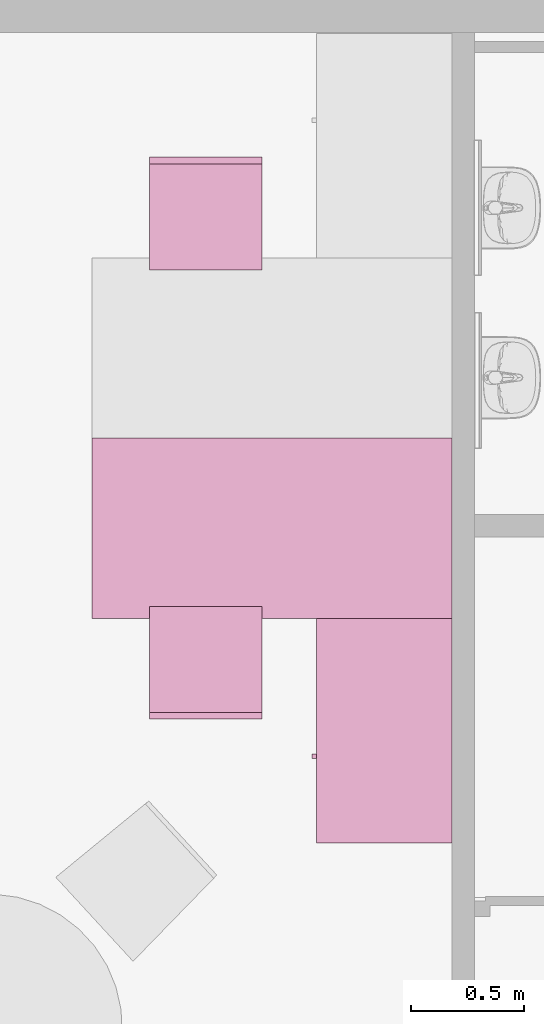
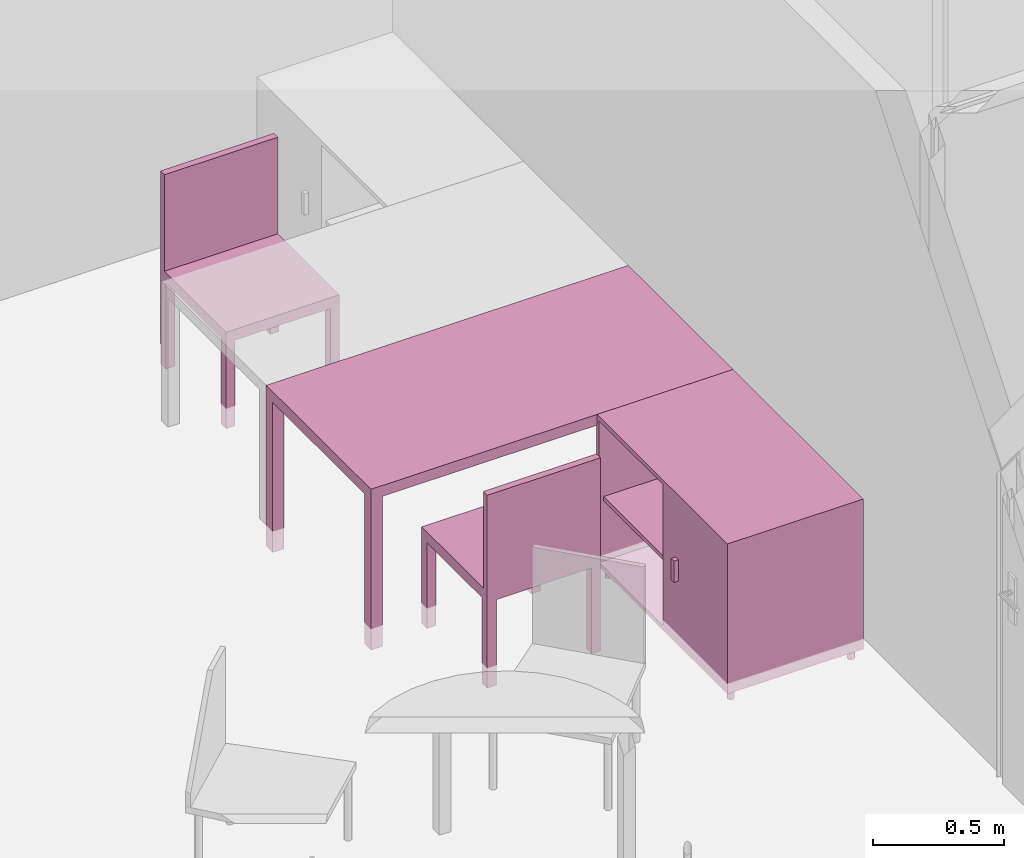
"""IFC4 building model written with IfcOpenShell, lengths in metres."""

from ifc_helpers import new_model, entity, si_unit, converted_unit, derived_unit, frame, origin, place, context, subcontext, project, spatial, faceted_brep, element, save


model = new_model("IFC4")

# Units and contexts
model_context = context("Model", 3, precision=1e-05, world=origin())
body_context = subcontext(model_context, "Body", "Model", "MODEL_VIEW")
ifc_project = project(units=[si_unit("LENGTHUNIT", "METRE"), si_unit("AREAUNIT", "SQUARE_METRE"), si_unit("VOLUMEUNIT", "CUBIC_METRE"), si_unit("MASSUNIT", "GRAM", prefix="KILO"), converted_unit("PLANEANGLEUNIT", "DEGREE", entity("IfcPlaneAngleMeasure", 0.0174532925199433), si_unit("PLANEANGLEUNIT", "RADIAN"), dimensions=[0, 0, 0, 0, 0, 0, 0]), derived_unit("THERMALTRANSMITTANCEUNIT", [(si_unit("POWERUNIT", "WATT"), 1), (si_unit("THERMODYNAMICTEMPERATUREUNIT", "KELVIN"), -1), (si_unit("LENGTHUNIT", "METRE"), -2)]), derived_unit("VOLUMETRICFLOWRATEUNIT", [(si_unit("LENGTHUNIT", "METRE"), 3), (converted_unit("TIMEUNIT", "hour", entity("IfcTimeMeasure", 3600.0), si_unit("TIMEUNIT", "SECOND"), dimensions=[0, 0, 1, 0, 0, 0, 0]), -1), (si_unit("LENGTHUNIT", "METRE"), -1)])], contexts=[model_context])

# Building, storeys
building_placement = place(None, origin())
building = spatial("IfcBuilding", under=ifc_project, at=building_placement, Name="HABITATGE PLURIFAMILIAR", CompositionType="ELEMENT")
storey_1_placement = place(building_placement, frame((0.0, 0.0, 12.27)))
storey_1 = spatial("IfcBuildingStorey", under=building, at=storey_1_placement, Name="PLANTA TERCERA", CompositionType="ELEMENT", Elevation=12.27)
storey_2_placement = place(storey_1_placement, frame((0.0, 0.0, 9.26)))
storey_2 = spatial("IfcBuildingStorey", under=storey_1, at=storey_2_placement, Name="NOU", CompositionType="PARTIAL")

# Furniture
furniture_1_placement = place(storey_2_placement, frame((402.994517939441, 27.015601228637, -9.35590342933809)))
element("IfcFurniture", 1, at=furniture_1_placement, inside=storey_2, Name="Cadira d'Oficina_P3", context=body_context, shape_type="Brep", body=[
    faceted_brep([(0.0, 0.0, 0.4), (0.5, 0.0, 0.4), (0.5, 0.500000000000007, 0.4), (0.0, 0.500000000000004, 0.4), (0.0, 0.500000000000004, 0.45), (0.5, 0.500000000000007, 0.45), (0.5, 0.0, 0.45), (0.0, 0.0, 0.45)], [[[0, 1, 2, 3]], [[4, 5, 6, 7]], [[3, 4, 7, 0]], [[2, 5, 4, 3]], [[1, 6, 5, 2]], [[0, 7, 6, 1]]], orient=[[False], [False], [False], [False], [False], [False]]),
    faceted_brep([(0.5, 0.460000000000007, 0.0), (0.5, 0.500000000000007, 0.0), (0.46, 0.500000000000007, 0.0), (0.46, 0.460000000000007, 0.0), (0.46, 0.460000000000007, 0.4), (0.46, 0.500000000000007, 0.4), (0.5, 0.500000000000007, 0.4), (0.5, 0.460000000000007, 0.4)], [[[0, 1, 2, 3]], [[4, 5, 6, 7]], [[3, 4, 7, 0]], [[2, 5, 4, 3]], [[1, 6, 5, 2]], [[0, 7, 6, 1]]], orient=[[False], [False], [False], [False], [False], [False]]),
    faceted_brep([(0.5, 0.0, 0.0), (0.5, 0.0400000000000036, 0.0), (0.46, 0.0400000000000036, 0.0), (0.46, 0.0, 0.0), (0.46, 0.0, 0.4), (0.46, 0.0400000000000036, 0.4), (0.5, 0.0400000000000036, 0.4), (0.5, 0.0, 0.4)], [[[0, 1, 2, 3]], [[4, 5, 6, 7]], [[3, 4, 7, 0]], [[2, 5, 4, 3]], [[1, 6, 5, 2]], [[0, 7, 6, 1]]], orient=[[False], [False], [False], [False], [False], [False]]),
    faceted_brep([(0.04, 0.460000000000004, 0.0), (0.04, 0.500000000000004, 0.0), (0.0, 0.500000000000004, 0.0), (0.0, 0.460000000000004, 0.0), (0.0, 0.460000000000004, 0.4), (0.0, 0.500000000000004, 0.4), (0.04, 0.500000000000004, 0.4), (0.04, 0.460000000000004, 0.4)], [[[0, 1, 2, 3]], [[4, 5, 6, 7]], [[3, 4, 7, 0]], [[2, 5, 4, 3]], [[1, 6, 5, 2]], [[0, 7, 6, 1]]], orient=[[False], [False], [False], [False], [False], [False]]),
    faceted_brep([(0.04, 0.0, 0.0), (0.04, 0.04, 0.0), (0.0, 0.04, 0.0), (0.0, 0.0, 0.0), (0.0, 0.0, 0.4), (0.0, 0.04, 0.4), (0.04, 0.04, 0.4), (0.04, 0.0, 0.4)], [[[0, 1, 2, 3]], [[4, 5, 6, 7]], [[3, 4, 7, 0]], [[2, 5, 4, 3]], [[1, 6, 5, 2]], [[0, 7, 6, 1]]], orient=[[False], [False], [False], [False], [False], [False]]),
    faceted_brep([(0.5, 0.470000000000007, 0.45), (0.5, 0.500000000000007, 0.45), (0.0, 0.500000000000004, 0.45), (0.0, 0.470000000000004, 0.45), (0.0, 0.470000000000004, 0.9), (0.0, 0.500000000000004, 0.9), (0.5, 0.500000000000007, 0.9), (0.5, 0.470000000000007, 0.9)], [[[0, 1, 2, 3]], [[4, 5, 6, 7]], [[3, 4, 7, 0]], [[2, 5, 4, 3]], [[1, 6, 5, 2]], [[0, 7, 6, 1]]], orient=[[False], [False], [False], [False], [False], [False]]),
])
furniture_2_placement = place(storey_2_placement, frame((402.740038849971, 25.4681098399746, -9.3599999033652)))
element("IfcFurniture", 2, at=furniture_2_placement, inside=storey_2, Name="Taula 160X80_P3", context=body_context, shape_type="Brep", body=[
    faceted_brep([(0.05, 0.750069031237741, 0.0), (0.05, 0.800069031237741, 0.0), (0.0, 0.800069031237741, 0.0), (0.0, 0.750069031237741, 0.0), (0.05, 0.800069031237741, 0.7), (0.05, 0.750069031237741, 0.7), (0.0, 0.750069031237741, 0.7), (0.0, 0.800069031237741, 0.7)], [[[0, 1, 2, 3]], [[4, 5, 6, 7]], [[1, 0, 5, 4]], [[2, 1, 4, 7]], [[3, 2, 7, 6]], [[0, 3, 6, 5]]], orient=[[False], [False], [False], [False], [False], [False]]),
    faceted_brep([(0.05, 0.0, 0.0), (0.05, 0.05, 0.0), (0.0, 0.05, 0.0), (0.0, 0.0, 0.0), (0.05, 0.05, 0.7), (0.05, 0.0, 0.7), (0.0, 0.0, 0.7), (0.0, 0.05, 0.7)], [[[0, 1, 2, 3]], [[4, 5, 6, 7]], [[1, 0, 5, 4]], [[2, 1, 4, 7]], [[3, 2, 7, 6]], [[0, 3, 6, 5]]], orient=[[False], [False], [False], [False], [False], [False]]),
    faceted_brep([(1.596945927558, 0.0, 0.7), (1.596945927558, 0.800069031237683, 0.7), (0.0, 0.800069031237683, 0.7), (0.0, 0.0, 0.7), (1.596945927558, 0.800069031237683, 0.75), (1.596945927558, 0.0, 0.75), (0.0, 0.0, 0.75), (0.0, 0.800069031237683, 0.75)], [[[0, 1, 2, 3]], [[4, 5, 6, 7]], [[1, 0, 5, 4]], [[2, 1, 4, 7]], [[3, 2, 7, 6]], [[0, 3, 6, 5]]], orient=[[False], [False], [False], [False], [False], [False]]),
    faceted_brep([(1.596945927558, 0.750069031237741, 0.0), (1.596945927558, 0.800069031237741, 0.0), (1.546945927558, 0.800069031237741, 0.0), (1.546945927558, 0.750069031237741, 0.0), (1.596945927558, 0.800069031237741, 0.7), (1.596945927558, 0.750069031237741, 0.7), (1.546945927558, 0.750069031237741, 0.7), (1.546945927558, 0.800069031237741, 0.7)], [[[0, 1, 2, 3]], [[4, 5, 6, 7]], [[1, 0, 5, 4]], [[2, 1, 4, 7]], [[3, 2, 7, 6]], [[0, 3, 6, 5]]], orient=[[False], [False], [False], [False], [False], [False]]),
    faceted_brep([(1.596945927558, 0.0, 0.0), (1.596945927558, 0.05, 0.0), (1.546945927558, 0.05, 0.0), (1.546945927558, 0.0, 0.0), (1.596945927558, 0.05, 0.7), (1.596945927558, 0.0, 0.7), (1.546945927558, 0.0, 0.7), (1.546945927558, 0.05, 0.7)], [[[0, 1, 2, 3]], [[4, 5, 6, 7]], [[1, 0, 5, 4]], [[2, 1, 4, 7]], [[3, 2, 7, 6]], [[0, 3, 6, 5]]], orient=[[False], [False], [False], [False], [False], [False]]),
])
furniture_3_placement = place(storey_2_placement, frame((403.716984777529, 24.4721359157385, -9.3599999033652)))
element("IfcFurniture", 3, at=furniture_3_placement, inside=storey_2, Name="Taula 100X60_P3", context=body_context, shape_type="Brep", body=[
    faceted_brep([(0.620000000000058, 1.00000000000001, 0.05), (0.620000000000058, 1.00000000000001, 0.07), (0.02, 1.00000000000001, 0.07), (0.02, 1.00000000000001, 0.05), (0.02, 0.0, 0.07), (0.02, 0.0, 0.05), (0.620000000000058, 0.0, 0.07), (0.620000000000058, 0.0, 0.05)], [[[0, 1, 2, 3]], [[3, 2, 4, 5]], [[5, 4, 6, 7]], [[7, 6, 1, 0]], [[0, 3, 5, 7]], [[1, 6, 4, 2]]], orient=[[False], [False], [False], [False], [False], [False]]),
    faceted_brep([(0.04, 1.00000000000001, 0.35), (0.04, 0.0, 0.35), (0.62, 0.0, 0.35), (0.62, 1.00000000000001, 0.35), (0.62, 1.00000000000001, 0.37), (0.62, 0.0, 0.37), (0.04, 0.0, 0.37), (0.04, 1.00000000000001, 0.37)], [[[0, 1, 2, 3]], [[4, 5, 6, 7]], [[3, 4, 7, 0]], [[2, 5, 4, 3]], [[1, 6, 5, 2]], [[0, 7, 6, 1]]], orient=[[False], [False], [False], [False], [False], [False]]),
    faceted_brep([(0.04, 0.490000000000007, 0.75), (0.02, 0.490000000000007, 0.75), (0.02, 0.490000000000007, 0.05), (0.04, 0.490000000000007, 0.05), (0.02, 0.0, 0.05), (0.04, 0.0, 0.05), (0.02, 0.0, 0.75), (0.04, 0.0, 0.75)], [[[0, 1, 2, 3]], [[3, 2, 4, 5]], [[5, 4, 6, 7]], [[7, 6, 1, 0]], [[0, 3, 5, 7]], [[1, 6, 4, 2]]], orient=[[False], [False], [False], [False], [False], [False]]),
    faceted_brep([(0.62, 0.980000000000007, 0.75), (0.62, 1.00000000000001, 0.75), (0.620000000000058, 1.00000000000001, 0.0499999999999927), (0.620000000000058, 0.980000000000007, 0.0499999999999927), (0.02, 1.00000000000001, 0.05), (0.02, 0.980000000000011, 0.05), (0.02, 1.00000000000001, 0.75), (0.02, 0.980000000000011, 0.75)], [[[0, 1, 2, 3]], [[3, 2, 4, 5]], [[5, 4, 6, 7]], [[7, 6, 1, 0]], [[0, 3, 5, 7]], [[1, 6, 4, 2]]], orient=[[False], [False], [False], [False], [False], [False]]),
    faceted_brep([(0.62, 0.470000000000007, 0.75), (0.62, 0.490000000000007, 0.75), (0.620000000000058, 0.490000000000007, 0.0499999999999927), (0.620000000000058, 0.470000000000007, 0.0499999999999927), (0.02, 0.490000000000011, 0.05), (0.02, 0.470000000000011, 0.05), (0.02, 0.490000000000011, 0.75), (0.02, 0.470000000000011, 0.75)], [[[0, 1, 2, 3]], [[3, 2, 4, 5]], [[5, 4, 6, 7]], [[7, 6, 1, 0]], [[0, 3, 5, 7]], [[1, 6, 4, 2]]], orient=[[False], [False], [False], [False], [False], [False]]),
    faceted_brep([(0.620000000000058, 0.47, 0.750000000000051), (0.620000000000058, 0.490000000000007, 0.750000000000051), (0.620000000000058, 0.490000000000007, 0.0499999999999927), (0.620000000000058, 0.47, 0.0499999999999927), (0.0400000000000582, 0.490000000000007, 0.0499999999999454), (0.0400000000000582, 0.47, 0.0499999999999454), (0.04, 0.490000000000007, 0.750000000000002), (0.04, 0.47, 0.750000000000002)], [[[0, 1, 2, 3]], [[3, 2, 4, 5]], [[5, 4, 6, 7]], [[7, 6, 1, 0]], [[0, 3, 5, 7]], [[1, 6, 4, 2]]], orient=[[False], [False], [False], [False], [False], [False]]),
    faceted_brep([(0.62, 0.0, 0.75), (0.62, 0.0200000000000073, 0.75), (0.620000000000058, 0.0200000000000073, 0.0499999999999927), (0.620000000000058, 0.0, 0.0499999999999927), (0.02, 0.0200000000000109, 0.05), (0.02, 0.0, 0.05), (0.02, 0.0200000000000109, 0.75), (0.02, 0.0, 0.75)], [[[0, 1, 2, 3]], [[3, 2, 4, 5]], [[5, 4, 6, 7]], [[7, 6, 1, 0]], [[0, 3, 5, 7]], [[1, 6, 4, 2]]], orient=[[False], [False], [False], [False], [False], [False]]),
    faceted_brep([(0.620000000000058, 1.00000000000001, 0.73), (0.620000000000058, 1.00000000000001, 0.75), (0.02, 1.00000000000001, 0.75), (0.02, 1.00000000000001, 0.73), (0.02, 0.0, 0.75), (0.02, 0.0, 0.73), (0.620000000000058, 0.0, 0.75), (0.620000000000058, 0.0, 0.73)], [[[0, 1, 2, 3]], [[3, 2, 4, 5]], [[5, 4, 6, 7]], [[7, 6, 1, 0]], [[0, 3, 5, 7]], [[1, 6, 4, 2]]], orient=[[False], [False], [False], [False], [False], [False]]),
    faceted_brep([(0.62, 0.980000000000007, 0.75), (0.6, 0.980000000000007, 0.75), (0.6, 0.980000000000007, 0.05), (0.62, 0.980000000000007, 0.05), (0.6, 0.0, 0.05), (0.62, 0.0, 0.05), (0.6, 0.0, 0.75), (0.62, 0.0, 0.75)], [[[0, 1, 2, 3]], [[3, 2, 4, 5]], [[5, 4, 6, 7]], [[7, 6, 1, 0]], [[0, 3, 5, 7]], [[1, 6, 4, 2]]], orient=[[False], [False], [False], [False], [False], [False]]),
    faceted_brep([(0.02, 0.37442032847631, 0.35), (0.02, 0.39442032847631, 0.35), (0.0, 0.39442032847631, 0.35), (0.0, 0.37442032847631, 0.35), (0.02, 0.39442032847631, 0.45), (0.02, 0.37442032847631, 0.45), (0.0, 0.37442032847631, 0.45), (0.0, 0.39442032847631, 0.45)], [[[0, 1, 2, 3]], [[4, 5, 6, 7]], [[1, 0, 5, 4]], [[2, 1, 4, 7]], [[3, 2, 7, 6]], [[0, 3, 6, 5]]], orient=[[False], [False], [False], [False], [False], [False]]),
    faceted_brep([(0.583821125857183, 0.950063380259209, 0.0), (0.586415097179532, 0.950290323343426, 0.0), (0.588930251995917, 0.950964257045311, 0.0), (0.591290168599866, 0.952064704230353, 0.0), (0.59342314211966, 0.953558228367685, 0.0), (0.595264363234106, 0.955399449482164, 0.0), (0.596757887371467, 0.957532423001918, 0.0), (0.597858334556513, 0.959892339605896, 0.0), (0.598532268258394, 0.962407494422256, 0.0), (0.598759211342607, 0.96500146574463, 0.0), (0.598532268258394, 0.967595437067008, 0.0), (0.597858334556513, 0.970110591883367, 0.0), (0.596757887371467, 0.972470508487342, 0.0), (0.595264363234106, 0.9746034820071, 0.0), (0.59342314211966, 0.976444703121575, 0.0), (0.591290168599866, 0.977938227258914, 0.0), (0.588930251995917, 0.979038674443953, 0.0), (0.586415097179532, 0.979712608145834, 0.0), (0.583821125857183, 0.979939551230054, 0.0), (0.581227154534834, 0.979712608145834, 0.0), (0.578711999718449, 0.979038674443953, 0.0), (0.5763520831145, 0.977938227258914, 0.0), (0.574219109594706, 0.976444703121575, 0.0), (0.57237788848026, 0.9746034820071, 0.0), (0.570884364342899, 0.972470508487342, 0.0), (0.569783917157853, 0.970110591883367, 0.0), (0.569109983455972, 0.967595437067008, 0.0), (0.568883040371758, 0.96500146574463, 0.0), (0.569109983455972, 0.962407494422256, 0.0), (0.569783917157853, 0.959892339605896, 0.0), (0.570884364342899, 0.957532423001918, 0.0), (0.57237788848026, 0.955399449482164, 0.0), (0.574219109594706, 0.953558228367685, 0.0), (0.5763520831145, 0.952064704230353, 0.0), (0.578711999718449, 0.950964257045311, 0.0), (0.581227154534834, 0.950290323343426, 0.0), (0.583821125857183, 0.950063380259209, 0.05), (0.581227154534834, 0.950290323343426, 0.05), (0.578711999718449, 0.950964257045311, 0.05), (0.5763520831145, 0.952064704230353, 0.05), (0.574219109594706, 0.953558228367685, 0.05), (0.57237788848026, 0.955399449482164, 0.05), (0.570884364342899, 0.957532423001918, 0.05), (0.569783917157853, 0.959892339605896, 0.05), (0.569109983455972, 0.962407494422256, 0.05), (0.568883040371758, 0.96500146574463, 0.05), (0.569109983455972, 0.967595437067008, 0.05), (0.569783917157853, 0.970110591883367, 0.05), (0.570884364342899, 0.972470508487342, 0.05), (0.57237788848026, 0.9746034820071, 0.05), (0.574219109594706, 0.976444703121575, 0.05), (0.5763520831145, 0.977938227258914, 0.05), (0.578711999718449, 0.979038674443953, 0.05), (0.581227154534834, 0.979712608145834, 0.05), (0.583821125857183, 0.979939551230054, 0.05), (0.586415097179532, 0.979712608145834, 0.05), (0.588930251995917, 0.979038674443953, 0.05), (0.591290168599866, 0.977938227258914, 0.05), (0.59342314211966, 0.976444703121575, 0.05), (0.595264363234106, 0.9746034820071, 0.05), (0.596757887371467, 0.972470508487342, 0.05), (0.597858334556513, 0.970110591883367, 0.05), (0.598532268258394, 0.967595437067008, 0.05), (0.598759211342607, 0.96500146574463, 0.05), (0.598532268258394, 0.962407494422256, 0.05), (0.597858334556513, 0.959892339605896, 0.05), (0.596757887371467, 0.957532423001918, 0.05), (0.595264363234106, 0.955399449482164, 0.05), (0.59342314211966, 0.953558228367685, 0.05), (0.591290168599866, 0.952064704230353, 0.05), (0.588930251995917, 0.950964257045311, 0.05), (0.586415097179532, 0.950290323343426, 0.05)], [[[0, 1, 2, 3, 4, 5, 6, 7, 8, 9, 10, 11, 12, 13, 14, 15, 16, 17, 18, 19, 20, 21, 22, 23, 24, 25, 26, 27, 28, 29, 30, 31, 32, 33, 34, 35]], [[36, 37, 38, 39, 40, 41, 42, 43, 44, 45, 46, 47, 48, 49, 50, 51, 52, 53, 54, 55, 56, 57, 58, 59, 60, 61, 62, 63, 64, 65, 66, 67, 68, 69, 70, 71]], [[35, 37, 36, 0]], [[34, 38, 37, 35]], [[33, 39, 38, 34]], [[32, 40, 39, 33]], [[31, 41, 40, 32]], [[30, 42, 41, 31]], [[29, 43, 42, 30]], [[28, 44, 43, 29]], [[27, 45, 44, 28]], [[26, 46, 45, 27]], [[25, 47, 46, 26]], [[24, 48, 47, 25]], [[23, 49, 48, 24]], [[22, 50, 49, 23]], [[21, 51, 50, 22]], [[20, 52, 51, 21]], [[19, 53, 52, 20]], [[18, 54, 53, 19]], [[17, 55, 54, 18]], [[16, 56, 55, 17]], [[15, 57, 56, 16]], [[14, 58, 57, 15]], [[13, 59, 58, 14]], [[12, 60, 59, 13]], [[11, 61, 60, 12]], [[10, 62, 61, 11]], [[9, 63, 62, 10]], [[8, 64, 63, 9]], [[7, 65, 64, 8]], [[6, 66, 65, 7]], [[5, 67, 66, 6]], [[4, 68, 67, 5]], [[3, 69, 68, 4]], [[2, 70, 69, 3]], [[1, 71, 70, 2]], [[0, 36, 71, 1]]], orient=[[False], [False], [False], [False], [False], [False], [False], [False], [False], [False], [False], [False], [False], [False], [False], [False], [False], [False], [False], [False], [False], [False], [False], [False], [False], [False], [False], [False], [False], [False], [False], [False], [False], [False], [False], [False], [False], [False]]),
    faceted_brep([(0.0538211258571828, 0.950063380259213, 0.0), (0.0564150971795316, 0.95029032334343, 0.0), (0.0589302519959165, 0.950964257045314, 0.0), (0.0612901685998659, 0.952064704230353, 0.0), (0.06342314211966, 0.953558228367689, 0.0), (0.065264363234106, 0.955399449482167, 0.0), (0.0667578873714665, 0.957532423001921, 0.0), (0.067858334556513, 0.959892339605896, 0.0), (0.0685322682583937, 0.962407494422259, 0.0), (0.0687592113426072, 0.965001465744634, 0.0), (0.0685322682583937, 0.967595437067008, 0.0), (0.067858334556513, 0.970110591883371, 0.0), (0.0667578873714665, 0.972470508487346, 0.0), (0.065264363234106, 0.9746034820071, 0.0), (0.06342314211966, 0.976444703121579, 0.0), (0.0612901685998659, 0.977938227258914, 0.0), (0.0589302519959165, 0.979038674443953, 0.0), (0.0564150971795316, 0.979712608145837, 0.0), (0.0538211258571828, 0.979939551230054, 0.0), (0.051227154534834, 0.979712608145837, 0.0), (0.0487119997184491, 0.979038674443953, 0.0), (0.0463520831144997, 0.977938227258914, 0.0), (0.0442191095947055, 0.976444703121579, 0.0), (0.0423778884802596, 0.9746034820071, 0.0), (0.0408843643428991, 0.972470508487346, 0.0), (0.0397839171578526, 0.970110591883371, 0.0), (0.0391099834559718, 0.967595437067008, 0.0), (0.0388830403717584, 0.965001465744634, 0.0), (0.0391099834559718, 0.962407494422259, 0.0), (0.0397839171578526, 0.959892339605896, 0.0), (0.0408843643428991, 0.957532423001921, 0.0), (0.0423778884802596, 0.955399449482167, 0.0), (0.0442191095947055, 0.953558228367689, 0.0), (0.0463520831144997, 0.952064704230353, 0.0), (0.0487119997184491, 0.950964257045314, 0.0), (0.051227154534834, 0.95029032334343, 0.0), (0.0538211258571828, 0.950063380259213, 0.05), (0.051227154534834, 0.95029032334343, 0.05), (0.0487119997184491, 0.950964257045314, 0.05), (0.0463520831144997, 0.952064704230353, 0.05), (0.0442191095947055, 0.953558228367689, 0.05), (0.0423778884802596, 0.955399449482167, 0.05), (0.0408843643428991, 0.957532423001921, 0.05), (0.0397839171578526, 0.959892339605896, 0.05), (0.0391099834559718, 0.962407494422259, 0.05), (0.0388830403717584, 0.965001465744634, 0.05), (0.0391099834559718, 0.967595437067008, 0.05), (0.0397839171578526, 0.970110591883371, 0.05), (0.0408843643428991, 0.972470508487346, 0.05), (0.0423778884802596, 0.9746034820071, 0.05), (0.0442191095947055, 0.976444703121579, 0.05), (0.0463520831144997, 0.977938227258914, 0.05), (0.0487119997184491, 0.979038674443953, 0.05), (0.051227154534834, 0.979712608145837, 0.05), (0.0538211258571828, 0.979939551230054, 0.05), (0.0564150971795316, 0.979712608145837, 0.05), (0.0589302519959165, 0.979038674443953, 0.05), (0.0612901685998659, 0.977938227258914, 0.05), (0.06342314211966, 0.976444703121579, 0.05), (0.065264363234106, 0.9746034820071, 0.05), (0.0667578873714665, 0.972470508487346, 0.05), (0.067858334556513, 0.970110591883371, 0.05), (0.0685322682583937, 0.967595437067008, 0.05), (0.0687592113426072, 0.965001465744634, 0.05), (0.0685322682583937, 0.962407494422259, 0.05), (0.067858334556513, 0.959892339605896, 0.05), (0.0667578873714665, 0.957532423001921, 0.05), (0.065264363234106, 0.955399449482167, 0.05), (0.06342314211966, 0.953558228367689, 0.05), (0.0612901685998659, 0.952064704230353, 0.05), (0.0589302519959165, 0.950964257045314, 0.05), (0.0564150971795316, 0.95029032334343, 0.05)], [[[0, 1, 2, 3, 4, 5, 6, 7, 8, 9, 10, 11, 12, 13, 14, 15, 16, 17, 18, 19, 20, 21, 22, 23, 24, 25, 26, 27, 28, 29, 30, 31, 32, 33, 34, 35]], [[36, 37, 38, 39, 40, 41, 42, 43, 44, 45, 46, 47, 48, 49, 50, 51, 52, 53, 54, 55, 56, 57, 58, 59, 60, 61, 62, 63, 64, 65, 66, 67, 68, 69, 70, 71]], [[35, 37, 36, 0]], [[34, 38, 37, 35]], [[33, 39, 38, 34]], [[32, 40, 39, 33]], [[31, 41, 40, 32]], [[30, 42, 41, 31]], [[29, 43, 42, 30]], [[28, 44, 43, 29]], [[27, 45, 44, 28]], [[26, 46, 45, 27]], [[25, 47, 46, 26]], [[24, 48, 47, 25]], [[23, 49, 48, 24]], [[22, 50, 49, 23]], [[21, 51, 50, 22]], [[20, 52, 51, 21]], [[19, 53, 52, 20]], [[18, 54, 53, 19]], [[17, 55, 54, 18]], [[16, 56, 55, 17]], [[15, 57, 56, 16]], [[14, 58, 57, 15]], [[13, 59, 58, 14]], [[12, 60, 59, 13]], [[11, 61, 60, 12]], [[10, 62, 61, 11]], [[9, 63, 62, 10]], [[8, 64, 63, 9]], [[7, 65, 64, 8]], [[6, 66, 65, 7]], [[5, 67, 66, 6]], [[4, 68, 67, 5]], [[3, 69, 68, 4]], [[2, 70, 69, 3]], [[1, 71, 70, 2]], [[0, 36, 71, 1]]], orient=[[False], [False], [False], [False], [False], [False], [False], [False], [False], [False], [False], [False], [False], [False], [False], [False], [False], [False], [False], [False], [False], [False], [False], [False], [False], [False], [False], [False], [False], [False], [False], [False], [False], [False], [False], [False], [False], [False]]),
    faceted_brep([(0.0550000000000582, 0.0200170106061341, 0.0), (0.057593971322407, 0.0202439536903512, 0.0), (0.0601091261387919, 0.0209178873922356, 0.0), (0.0624690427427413, 0.0220183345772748, 0.0), (0.0646020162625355, 0.0235118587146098, 0.0), (0.0664432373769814, 0.0253530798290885, 0.0), (0.0679367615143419, 0.0274860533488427, 0.0), (0.0690372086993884, 0.0298459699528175, 0.0), (0.0697111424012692, 0.0323611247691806, 0.0), (0.0699380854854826, 0.0349550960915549, 0.0), (0.0697111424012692, 0.0375490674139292, 0.0), (0.0690372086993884, 0.0400642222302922, 0.0), (0.0679367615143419, 0.0424241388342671, 0.0), (0.0664432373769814, 0.0445571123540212, 0.0), (0.0646020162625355, 0.0463983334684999, 0.0), (0.0624690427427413, 0.047891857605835, 0.0), (0.0601091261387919, 0.0489923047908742, 0.0), (0.057593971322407, 0.0496662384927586, 0.0), (0.0550000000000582, 0.0498931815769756, 0.0), (0.0524060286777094, 0.0496662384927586, 0.0), (0.0498908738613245, 0.0489923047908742, 0.0), (0.0475309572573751, 0.047891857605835, 0.0), (0.0453979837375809, 0.0463983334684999, 0.0), (0.043556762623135, 0.0445571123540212, 0.0), (0.0420632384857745, 0.0424241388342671, 0.0), (0.040962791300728, 0.0400642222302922, 0.0), (0.0402888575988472, 0.0375490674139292, 0.0), (0.0400619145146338, 0.0349550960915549, 0.0), (0.0402888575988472, 0.0323611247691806, 0.0), (0.040962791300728, 0.0298459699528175, 0.0), (0.0420632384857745, 0.0274860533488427, 0.0), (0.043556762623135, 0.0253530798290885, 0.0), (0.0453979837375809, 0.0235118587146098, 0.0), (0.0475309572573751, 0.0220183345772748, 0.0), (0.0498908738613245, 0.0209178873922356, 0.0), (0.0524060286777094, 0.0202439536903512, 0.0), (0.0550000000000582, 0.0200170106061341, 0.05), (0.0524060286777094, 0.0202439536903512, 0.05), (0.0498908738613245, 0.0209178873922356, 0.05), (0.0475309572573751, 0.0220183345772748, 0.05), (0.0453979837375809, 0.0235118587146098, 0.05), (0.043556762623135, 0.0253530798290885, 0.05), (0.0420632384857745, 0.0274860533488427, 0.05), (0.040962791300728, 0.0298459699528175, 0.05), (0.0402888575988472, 0.0323611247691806, 0.05), (0.0400619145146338, 0.0349550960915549, 0.05), (0.0402888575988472, 0.0375490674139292, 0.05), (0.040962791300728, 0.0400642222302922, 0.05), (0.0420632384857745, 0.0424241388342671, 0.05), (0.043556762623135, 0.0445571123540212, 0.05), (0.0453979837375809, 0.0463983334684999, 0.05), (0.0475309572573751, 0.047891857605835, 0.05), (0.0498908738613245, 0.0489923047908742, 0.05), (0.0524060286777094, 0.0496662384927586, 0.05), (0.0550000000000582, 0.0498931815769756, 0.05), (0.057593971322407, 0.0496662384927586, 0.05), (0.0601091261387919, 0.0489923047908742, 0.05), (0.0624690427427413, 0.047891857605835, 0.05), (0.0646020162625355, 0.0463983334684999, 0.05), (0.0664432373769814, 0.0445571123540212, 0.05), (0.0679367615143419, 0.0424241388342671, 0.05), (0.0690372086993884, 0.0400642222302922, 0.05), (0.0697111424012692, 0.0375490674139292, 0.05), (0.0699380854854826, 0.0349550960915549, 0.05), (0.0697111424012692, 0.0323611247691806, 0.05), (0.0690372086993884, 0.0298459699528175, 0.05), (0.0679367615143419, 0.0274860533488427, 0.05), (0.0664432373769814, 0.0253530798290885, 0.05), (0.0646020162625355, 0.0235118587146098, 0.05), (0.0624690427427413, 0.0220183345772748, 0.05), (0.0601091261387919, 0.0209178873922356, 0.05), (0.057593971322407, 0.0202439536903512, 0.05)], [[[0, 1, 2, 3, 4, 5, 6, 7, 8, 9, 10, 11, 12, 13, 14, 15, 16, 17, 18, 19, 20, 21, 22, 23, 24, 25, 26, 27, 28, 29, 30, 31, 32, 33, 34, 35]], [[36, 37, 38, 39, 40, 41, 42, 43, 44, 45, 46, 47, 48, 49, 50, 51, 52, 53, 54, 55, 56, 57, 58, 59, 60, 61, 62, 63, 64, 65, 66, 67, 68, 69, 70, 71]], [[35, 37, 36, 0]], [[34, 38, 37, 35]], [[33, 39, 38, 34]], [[32, 40, 39, 33]], [[31, 41, 40, 32]], [[30, 42, 41, 31]], [[29, 43, 42, 30]], [[28, 44, 43, 29]], [[27, 45, 44, 28]], [[26, 46, 45, 27]], [[25, 47, 46, 26]], [[24, 48, 47, 25]], [[23, 49, 48, 24]], [[22, 50, 49, 23]], [[21, 51, 50, 22]], [[20, 52, 51, 21]], [[19, 53, 52, 20]], [[18, 54, 53, 19]], [[17, 55, 54, 18]], [[16, 56, 55, 17]], [[15, 57, 56, 16]], [[14, 58, 57, 15]], [[13, 59, 58, 14]], [[12, 60, 59, 13]], [[11, 61, 60, 12]], [[10, 62, 61, 11]], [[9, 63, 62, 10]], [[8, 64, 63, 9]], [[7, 65, 64, 8]], [[6, 66, 65, 7]], [[5, 67, 66, 6]], [[4, 68, 67, 5]], [[3, 69, 68, 4]], [[2, 70, 69, 3]], [[1, 71, 70, 2]], [[0, 36, 71, 1]]], orient=[[False], [False], [False], [False], [False], [False], [False], [False], [False], [False], [False], [False], [False], [False], [False], [False], [False], [False], [False], [False], [False], [False], [False], [False], [False], [False], [False], [False], [False], [False], [False], [False], [False], [False], [False], [False], [False], [False]]),
    faceted_brep([(0.585033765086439, 0.0203520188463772, 0.0), (0.587627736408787, 0.0205789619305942, 0.0), (0.590142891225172, 0.0212528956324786, 0.0), (0.592502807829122, 0.0223533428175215, 0.0), (0.594635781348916, 0.0238468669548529, 0.0), (0.596477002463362, 0.0256880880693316, 0.0), (0.597970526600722, 0.0278210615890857, 0.0), (0.599070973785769, 0.0301809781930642, 0.0), (0.59974490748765, 0.0326961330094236, 0.0), (0.599971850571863, 0.0352901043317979, 0.0), (0.59974490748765, 0.0378840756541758, 0.0), (0.599070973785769, 0.0403992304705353, 0.0), (0.597970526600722, 0.0427591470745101, 0.0), (0.596477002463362, 0.0448921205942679, 0.0), (0.594635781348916, 0.046733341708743, 0.0), (0.592502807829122, 0.0482268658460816, 0.0), (0.590142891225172, 0.0493273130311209, 0.0), (0.587627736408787, 0.0500012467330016, 0.0), (0.585033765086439, 0.0502281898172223, 0.0), (0.58243979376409, 0.0500012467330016, 0.0), (0.579924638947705, 0.0493273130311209, 0.0), (0.577564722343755, 0.0482268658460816, 0.0), (0.575431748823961, 0.046733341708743, 0.0), (0.573590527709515, 0.0448921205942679, 0.0), (0.572097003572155, 0.0427591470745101, 0.0), (0.570996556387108, 0.0403992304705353, 0.0), (0.570322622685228, 0.0378840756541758, 0.0), (0.570095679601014, 0.0352901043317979, 0.0), (0.570322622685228, 0.0326961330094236, 0.0), (0.570996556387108, 0.0301809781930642, 0.0), (0.572097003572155, 0.0278210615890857, 0.0), (0.573590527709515, 0.0256880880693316, 0.0), (0.575431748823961, 0.0238468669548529, 0.0), (0.577564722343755, 0.0223533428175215, 0.0), (0.579924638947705, 0.0212528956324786, 0.0), (0.58243979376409, 0.0205789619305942, 0.0), (0.585033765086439, 0.0203520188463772, 0.05), (0.58243979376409, 0.0205789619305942, 0.05), (0.579924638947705, 0.0212528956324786, 0.05), (0.577564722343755, 0.0223533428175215, 0.05), (0.575431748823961, 0.0238468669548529, 0.05), (0.573590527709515, 0.0256880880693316, 0.05), (0.572097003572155, 0.0278210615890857, 0.05), (0.570996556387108, 0.0301809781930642, 0.05), (0.570322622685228, 0.0326961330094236, 0.05), (0.570095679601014, 0.0352901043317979, 0.05), (0.570322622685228, 0.0378840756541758, 0.05), (0.570996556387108, 0.0403992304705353, 0.05), (0.572097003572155, 0.0427591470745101, 0.05), (0.573590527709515, 0.0448921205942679, 0.05), (0.575431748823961, 0.046733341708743, 0.05), (0.577564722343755, 0.0482268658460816, 0.05), (0.579924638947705, 0.0493273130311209, 0.05), (0.58243979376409, 0.0500012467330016, 0.05), (0.585033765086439, 0.0502281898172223, 0.05), (0.587627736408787, 0.0500012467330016, 0.05), (0.590142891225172, 0.0493273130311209, 0.05), (0.592502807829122, 0.0482268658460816, 0.05), (0.594635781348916, 0.046733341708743, 0.05), (0.596477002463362, 0.0448921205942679, 0.05), (0.597970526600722, 0.0427591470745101, 0.05), (0.599070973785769, 0.0403992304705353, 0.05), (0.59974490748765, 0.0378840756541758, 0.05), (0.599971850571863, 0.0352901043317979, 0.05), (0.59974490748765, 0.0326961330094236, 0.05), (0.599070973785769, 0.0301809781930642, 0.05), (0.597970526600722, 0.0278210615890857, 0.05), (0.596477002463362, 0.0256880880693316, 0.05), (0.594635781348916, 0.0238468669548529, 0.05), (0.592502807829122, 0.0223533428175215, 0.05), (0.590142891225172, 0.0212528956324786, 0.05), (0.587627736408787, 0.0205789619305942, 0.05)], [[[0, 1, 2, 3, 4, 5, 6, 7, 8, 9, 10, 11, 12, 13, 14, 15, 16, 17, 18, 19, 20, 21, 22, 23, 24, 25, 26, 27, 28, 29, 30, 31, 32, 33, 34, 35]], [[36, 37, 38, 39, 40, 41, 42, 43, 44, 45, 46, 47, 48, 49, 50, 51, 52, 53, 54, 55, 56, 57, 58, 59, 60, 61, 62, 63, 64, 65, 66, 67, 68, 69, 70, 71]], [[35, 37, 36, 0]], [[34, 38, 37, 35]], [[33, 39, 38, 34]], [[32, 40, 39, 33]], [[31, 41, 40, 32]], [[30, 42, 41, 31]], [[29, 43, 42, 30]], [[28, 44, 43, 29]], [[27, 45, 44, 28]], [[26, 46, 45, 27]], [[25, 47, 46, 26]], [[24, 48, 47, 25]], [[23, 49, 48, 24]], [[22, 50, 49, 23]], [[21, 51, 50, 22]], [[20, 52, 51, 21]], [[19, 53, 52, 20]], [[18, 54, 53, 19]], [[17, 55, 54, 18]], [[16, 56, 55, 17]], [[15, 57, 56, 16]], [[14, 58, 57, 15]], [[13, 59, 58, 14]], [[12, 60, 59, 13]], [[11, 61, 60, 12]], [[10, 62, 61, 11]], [[9, 63, 62, 10]], [[8, 64, 63, 9]], [[7, 65, 64, 8]], [[6, 66, 65, 7]], [[5, 67, 66, 6]], [[4, 68, 67, 5]], [[3, 69, 68, 4]], [[2, 70, 69, 3]], [[1, 71, 70, 2]], [[0, 36, 71, 1]]], orient=[[False], [False], [False], [False], [False], [False], [False], [False], [False], [False], [False], [False], [False], [False], [False], [False], [False], [False], [False], [False], [False], [False], [False], [False], [False], [False], [False], [False], [False], [False], [False], [False], [False], [False], [False], [False], [False], [False]]),
])
furniture_4_placement = place(storey_2_placement, frame((402.994517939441, 25.0207565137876, -9.35590342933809)))
element("IfcFurniture", 4, at=furniture_4_placement, inside=storey_2, Name="Cadira d'Oficina_P3", context=body_context, shape_type="Brep", body=[
    faceted_brep([(0.0, 0.500000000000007, 0.4), (0.0, 0.0, 0.4), (0.5, 0.0, 0.4), (0.5, 0.500000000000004, 0.4), (0.0, 0.0, 0.45), (0.0, 0.500000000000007, 0.45), (0.5, 0.500000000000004, 0.45), (0.5, 0.0, 0.45)], [[[0, 1, 2, 3]], [[4, 5, 6, 7]], [[1, 0, 5, 4]], [[2, 1, 4, 7]], [[3, 2, 7, 6]], [[0, 3, 6, 5]]], orient=[[False], [False], [False], [False], [False], [False]]),
    faceted_brep([(0.5, 0.04, 0.0), (0.46, 0.04, 0.0), (0.46, 0.0, 0.0), (0.5, 0.0, 0.0), (0.46, 0.04, 0.4), (0.5, 0.04, 0.4), (0.5, 0.0, 0.4), (0.46, 0.0, 0.4)], [[[0, 1, 2, 3]], [[4, 5, 6, 7]], [[1, 0, 5, 4]], [[2, 1, 4, 7]], [[3, 2, 7, 6]], [[0, 3, 6, 5]]], orient=[[False], [False], [False], [False], [False], [False]]),
    faceted_brep([(0.5, 0.500000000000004, 0.0), (0.46, 0.500000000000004, 0.0), (0.46, 0.460000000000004, 0.0), (0.5, 0.460000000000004, 0.0), (0.46, 0.500000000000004, 0.4), (0.5, 0.500000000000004, 0.4), (0.5, 0.460000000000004, 0.4), (0.46, 0.460000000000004, 0.4)], [[[0, 1, 2, 3]], [[4, 5, 6, 7]], [[1, 0, 5, 4]], [[2, 1, 4, 7]], [[3, 2, 7, 6]], [[0, 3, 6, 5]]], orient=[[False], [False], [False], [False], [False], [False]]),
    faceted_brep([(0.04, 0.0400000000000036, 0.0), (0.0, 0.0400000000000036, 0.0), (0.0, 0.0, 0.0), (0.04, 0.0, 0.0), (0.0, 0.0400000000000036, 0.4), (0.04, 0.0400000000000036, 0.4), (0.04, 0.0, 0.4), (0.0, 0.0, 0.4)], [[[0, 1, 2, 3]], [[4, 5, 6, 7]], [[1, 0, 5, 4]], [[2, 1, 4, 7]], [[3, 2, 7, 6]], [[0, 3, 6, 5]]], orient=[[False], [False], [False], [False], [False], [False]]),
    faceted_brep([(0.04, 0.500000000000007, 0.0), (0.0, 0.500000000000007, 0.0), (0.0, 0.460000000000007, 0.0), (0.04, 0.460000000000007, 0.0), (0.0, 0.500000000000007, 0.4), (0.04, 0.500000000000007, 0.4), (0.04, 0.460000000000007, 0.4), (0.0, 0.460000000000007, 0.4)], [[[0, 1, 2, 3]], [[4, 5, 6, 7]], [[1, 0, 5, 4]], [[2, 1, 4, 7]], [[3, 2, 7, 6]], [[0, 3, 6, 5]]], orient=[[False], [False], [False], [False], [False], [False]]),
    faceted_brep([(0.5, 0.03, 0.45), (0.0, 0.0300000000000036, 0.45), (0.0, 0.0, 0.45), (0.5, 0.0, 0.45), (0.0, 0.0300000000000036, 0.9), (0.5, 0.03, 0.9), (0.5, 0.0, 0.9), (0.0, 0.0, 0.9)], [[[0, 1, 2, 3]], [[4, 5, 6, 7]], [[1, 0, 5, 4]], [[2, 1, 4, 7]], [[3, 2, 7, 6]], [[0, 3, 6, 5]]], orient=[[False], [False], [False], [False], [False], [False]]),
])

save(model, "model.ifc")
